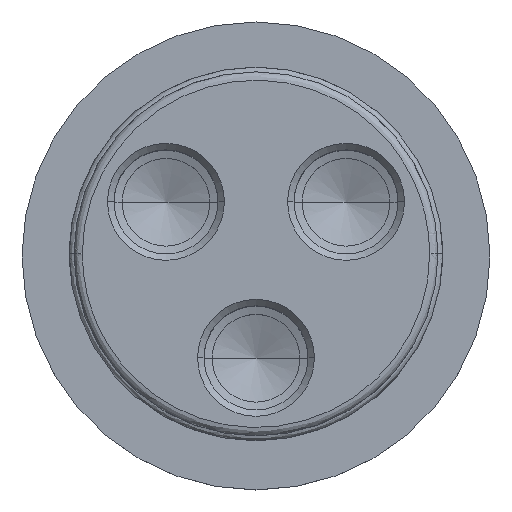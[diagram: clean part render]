
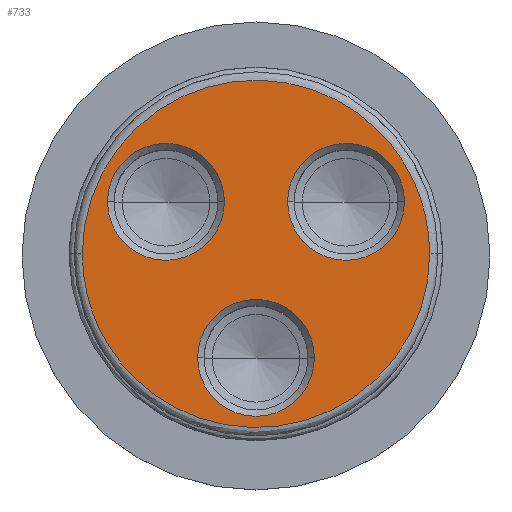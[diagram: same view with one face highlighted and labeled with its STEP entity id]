
A CAD part, top view. The second image highlights one B-rep face of the part: STEP entity #733.
In plain terms, the highlighted planar face has unit normal (0, 0, 1).
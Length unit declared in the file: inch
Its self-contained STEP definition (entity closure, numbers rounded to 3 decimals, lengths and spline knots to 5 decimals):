
#27 = DIRECTION ( 'NONE',  ( 1., 0., 0. ) ) ;
#35 = CARTESIAN_POINT ( 'NONE',  ( 0.835, -1.67, 0. ) ) ;
#46 = VERTEX_POINT ( 'NONE', #1525 ) ;
#63 = CARTESIAN_POINT ( 'NONE',  ( -0.28095, -0.5, 0. ) ) ;
#162 = AXIS2_PLACEMENT_3D ( 'NONE', #2183, #2388, #604 ) ;
#229 = EDGE_CURVE ( 'NONE', #46, #1773, #531, .T. ) ;
#231 = EDGE_CURVE ( 'NONE', #1773, #46, #1019, .T. ) ;
#247 = EDGE_CURVE ( 'NONE', #411, #1241, #586, .T. ) ;
#269 = CARTESIAN_POINT ( 'NONE',  ( -0.43301, 0.25, 0. ) ) ;
#306 = DIRECTION ( 'NONE',  ( 0., 0., -1. ) ) ;
#342 = CIRCLE ( 'NONE', #1232, 0.28095 ) ;
#385 = CARTESIAN_POINT ( 'NONE',  ( 0.28095, -0.5, 0. ) ) ;
#411 = VERTEX_POINT ( 'NONE', #1658 ) ;
#416 = CARTESIAN_POINT ( 'NONE',  ( -0.835, 0., 0. ) ) ;
#447 = ORIENTED_EDGE ( 'NONE', *, *, #2085, .T. ) ;
#455 = CARTESIAN_POINT ( 'NONE',  ( 0.71396, 0.25, 0. ) ) ;
#531 = CIRCLE ( 'NONE', #1631, 0.28095 ) ;
#567 = PLANE ( 'NONE',  #2136 ) ;
#586 =( BOUNDED_CURVE ( )  B_SPLINE_CURVE ( 3, ( #790, #35, #816, #416 ),
 .UNSPECIFIED., .F., .F. ) 
 B_SPLINE_CURVE_WITH_KNOTS ( ( 4, 4 ),
 ( 0., 1. ),
 .UNSPECIFIED. ) 
 CURVE ( )  GEOMETRIC_REPRESENTATION_ITEM ( )  RATIONAL_B_SPLINE_CURVE ( ( 1., 0.333, 0.333, 1. ) ) 
 REPRESENTATION_ITEM ( '' )  );
#604 = DIRECTION ( 'NONE',  ( 1., 0., 0. ) ) ;
#615 = ORIENTED_EDGE ( 'NONE', *, *, #1451, .T. ) ;
#664 = AXIS2_PLACEMENT_3D ( 'NONE', #2096, #2498, #2178 ) ;
#698 = DIRECTION ( 'NONE',  ( 0., 0., -1. ) ) ;
#723 = EDGE_LOOP ( 'NONE', ( #2024, #1428 ) ) ;
#733 = ADVANCED_FACE ( 'NONE', ( #1338, #2373, #1263, #1895 ), #567, .T. ) ;
#790 = CARTESIAN_POINT ( 'NONE',  ( 0.835, 0., 0. ) ) ;
#816 = CARTESIAN_POINT ( 'NONE',  ( -0.835, -1.67, 0. ) ) ;
#910 = ORIENTED_EDGE ( 'NONE', *, *, #1537, .T. ) ;
#944 = ORIENTED_EDGE ( 'NONE', *, *, #1922, .T. ) ;
#978 =( BOUNDED_CURVE ( )  B_SPLINE_CURVE ( 3, ( #2434, #1016, #1414, #1619 ),
 .UNSPECIFIED., .F., .T. ) 
 B_SPLINE_CURVE_WITH_KNOTS ( ( 4, 4 ),
 ( 0., 1. ),
 .UNSPECIFIED. ) 
 CURVE ( )  GEOMETRIC_REPRESENTATION_ITEM ( )  RATIONAL_B_SPLINE_CURVE ( ( 1., 0.333, 0.333, 1. ) ) 
 REPRESENTATION_ITEM ( '' )  );
#1016 = CARTESIAN_POINT ( 'NONE',  ( -0.835, 1.67, 0. ) ) ;
#1019 = CIRCLE ( 'NONE', #162, 0.28095 ) ;
#1035 = EDGE_LOOP ( 'NONE', ( #944, #447 ) ) ;
#1172 = VERTEX_POINT ( 'NONE', #385 ) ;
#1197 = CARTESIAN_POINT ( 'NONE',  ( 0.43301, 0.25, 0. ) ) ;
#1232 = AXIS2_PLACEMENT_3D ( 'NONE', #1903, #306, #2306 ) ;
#1241 = VERTEX_POINT ( 'NONE', #2361 ) ;
#1263 = FACE_BOUND ( 'NONE', #723, .T. ) ;
#1283 = VERTEX_POINT ( 'NONE', #1948 ) ;
#1293 = ORIENTED_EDGE ( 'NONE', *, *, #247, .F. ) ;
#1310 = EDGE_LOOP ( 'NONE', ( #2514, #1293 ) ) ;
#1338 = FACE_OUTER_BOUND ( 'NONE', #1310, .T. ) ;
#1363 = VERTEX_POINT ( 'NONE', #1420 ) ;
#1414 = CARTESIAN_POINT ( 'NONE',  ( 0.835, 1.67, 0. ) ) ;
#1420 = CARTESIAN_POINT ( 'NONE',  ( -0.71396, 0.25, 0. ) ) ;
#1428 = ORIENTED_EDGE ( 'NONE', *, *, #229, .T. ) ;
#1451 = EDGE_CURVE ( 'NONE', #1172, #2115, #342, .T. ) ;
#1458 = CIRCLE ( 'NONE', #664, 0.28095 ) ;
#1480 = DIRECTION ( 'NONE',  ( 1., 0., 0. ) ) ;
#1525 = CARTESIAN_POINT ( 'NONE',  ( 0.15206, 0.25, 0. ) ) ;
#1537 = EDGE_CURVE ( 'NONE', #2115, #1172, #1893, .T. ) ;
#1597 = DIRECTION ( 'NONE',  ( 0., 0., -1. ) ) ;
#1609 = DIRECTION ( 'NONE',  ( 0., 0., -1. ) ) ;
#1619 = CARTESIAN_POINT ( 'NONE',  ( 0.835, 0., 0. ) ) ;
#1631 = AXIS2_PLACEMENT_3D ( 'NONE', #1197, #1597, #27 ) ;
#1658 = CARTESIAN_POINT ( 'NONE',  ( 0.835, 0., 0. ) ) ;
#1765 = EDGE_CURVE ( 'NONE', #1241, #411, #978, .T. ) ;
#1773 = VERTEX_POINT ( 'NONE', #455 ) ;
#1819 = DIRECTION ( 'NONE',  ( 1., 0., 0. ) ) ;
#1867 = CARTESIAN_POINT ( 'NONE',  ( 0., -0.5, 0. ) ) ;
#1893 = CIRCLE ( 'NONE', #1950, 0.28095 ) ;
#1895 = FACE_BOUND ( 'NONE', #1035, .T. ) ;
#1900 = AXIS2_PLACEMENT_3D ( 'NONE', #269, #1609, #1819 ) ;
#1903 = CARTESIAN_POINT ( 'NONE',  ( 0., -0.5, 0. ) ) ;
#1922 = EDGE_CURVE ( 'NONE', #1283, #1363, #1946, .T. ) ;
#1927 = CARTESIAN_POINT ( 'NONE',  ( 0., 0., 0. ) ) ;
#1946 = CIRCLE ( 'NONE', #1900, 0.28095 ) ;
#1948 = CARTESIAN_POINT ( 'NONE',  ( -0.15206, 0.25, 0. ) ) ;
#1950 = AXIS2_PLACEMENT_3D ( 'NONE', #1867, #698, #1480 ) ;
#2020 = EDGE_LOOP ( 'NONE', ( #615, #910 ) ) ;
#2024 = ORIENTED_EDGE ( 'NONE', *, *, #231, .T. ) ;
#2085 = EDGE_CURVE ( 'NONE', #1363, #1283, #1458, .T. ) ;
#2096 = CARTESIAN_POINT ( 'NONE',  ( -0.43301, 0.25, 0. ) ) ;
#2113 = DIRECTION ( 'NONE',  ( 1., 0., 0. ) ) ;
#2115 = VERTEX_POINT ( 'NONE', #63 ) ;
#2136 = AXIS2_PLACEMENT_3D ( 'NONE', #1927, #2314, #2113 ) ;
#2178 = DIRECTION ( 'NONE',  ( 1., 0., 0. ) ) ;
#2183 = CARTESIAN_POINT ( 'NONE',  ( 0.43301, 0.25, 0. ) ) ;
#2306 = DIRECTION ( 'NONE',  ( 1., 0., 0. ) ) ;
#2314 = DIRECTION ( 'NONE',  ( 0., 0., 1. ) ) ;
#2361 = CARTESIAN_POINT ( 'NONE',  ( -0.835, 0., 0. ) ) ;
#2373 = FACE_BOUND ( 'NONE', #2020, .T. ) ;
#2388 = DIRECTION ( 'NONE',  ( 0., 0., -1. ) ) ;
#2434 = CARTESIAN_POINT ( 'NONE',  ( -0.835, 0., 0. ) ) ;
#2498 = DIRECTION ( 'NONE',  ( 0., 0., -1. ) ) ;
#2514 = ORIENTED_EDGE ( 'NONE', *, *, #1765, .F. ) ;
